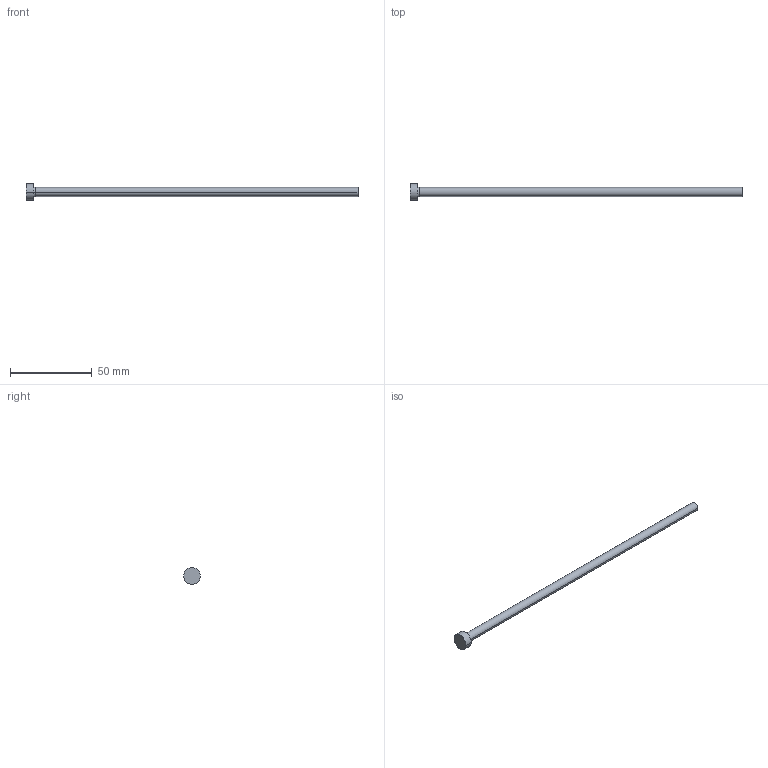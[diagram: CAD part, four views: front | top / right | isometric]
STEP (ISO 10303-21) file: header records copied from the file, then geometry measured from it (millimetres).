
FILE_DESCRIPTION (( 'STEP AP214' ), '1' );
FILE_NAME ('P15-8.STEP', '2020-03-11T18:30:11', ( '' ), ( '' ), 'SwSTEP 2.0', 'SolidWorks 2018', '' );
FILE_SCHEMA (( 'AUTOMOTIVE_DESIGN' ));
Length unit declared in the file: inch
Products named in the file (1): P15-8
Bounding box: 203.2 x 10.32 x 10.32 mm (x, y, z)
Volume: 5198.5 mm3; surface area: 3771.4 mm2
Topology: 1 solids, 1 shells, 13 faces, 24 edges, 14 vertices
Faces by surface type: cone 4, cylinder 4, plane 3, torus 2
Entity records: 366 total; most frequent: DIRECTION 68, CARTESIAN_POINT 52, ORIENTED_EDGE 48, AXIS2_PLACEMENT_3D 30, EDGE_CURVE 24, CIRCLE 16, EDGE_LOOP 14, VERTEX_POINT 14
